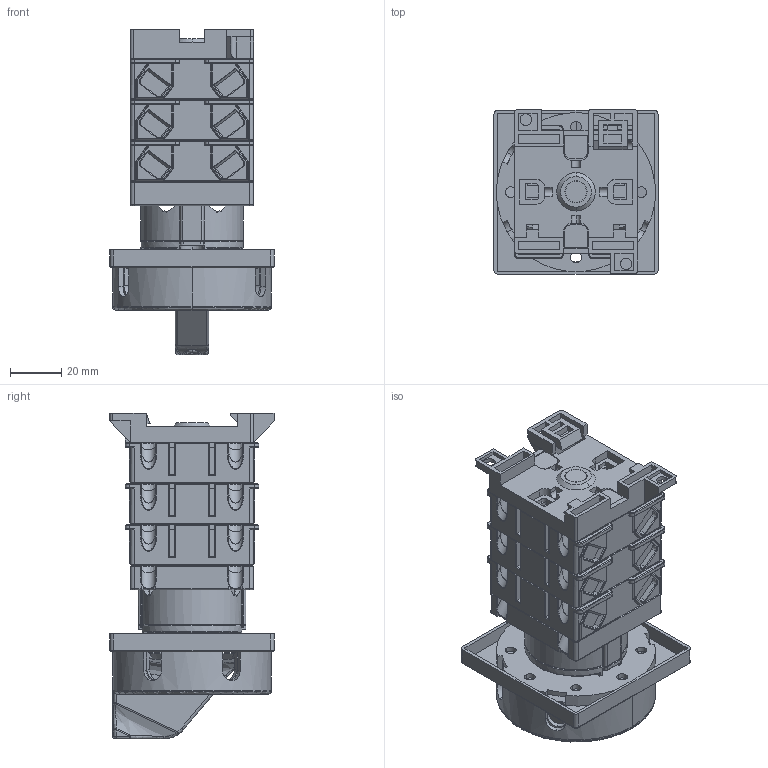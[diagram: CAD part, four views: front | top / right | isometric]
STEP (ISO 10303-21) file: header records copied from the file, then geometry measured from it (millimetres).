
FILE_DESCRIPTION (( 'STEP AP214' ), '1' );
FILE_NAME ('Ïåðåêëþ÷àòåëü 4G16,25-XXXX-OU-S6,S25 3ê.STEP', '2022-11-28T12:26:42', ( '' ), ( '' ), 'SwSTEP 2.0', 'SolidWorks 2018', '' );
FILE_SCHEMA (( 'AUTOMOTIVE_DESIGN' ));
Length unit declared in the file: millimetre
Products named in the file (1): Ïåðåêëþ÷àòåëü 4G16,25-XXXX-OU-S6,S25 3ê
Bounding box: 64 x 64 x 127.1 mm (x, y, z)
Volume: 195745.2 mm3; surface area: 97712.4 mm2
Topology: 13 solids, 37 shells, 3893 faces, 10218 edges, 6433 vertices
Faces by surface type: plane 2180, cylinder 1202, torus 205, cone 158, bspline 77, sphere 71
Entity records: 172825 total; most frequent: CARTESIAN_POINT 35238, ORIENTED_EDGE 20326, DIRECTION 19149, EDGE_CURVE 10163, LINE 6903, VECTOR 6903, VERTEX_POINT 6417, AXIS2_PLACEMENT_3D 6123
